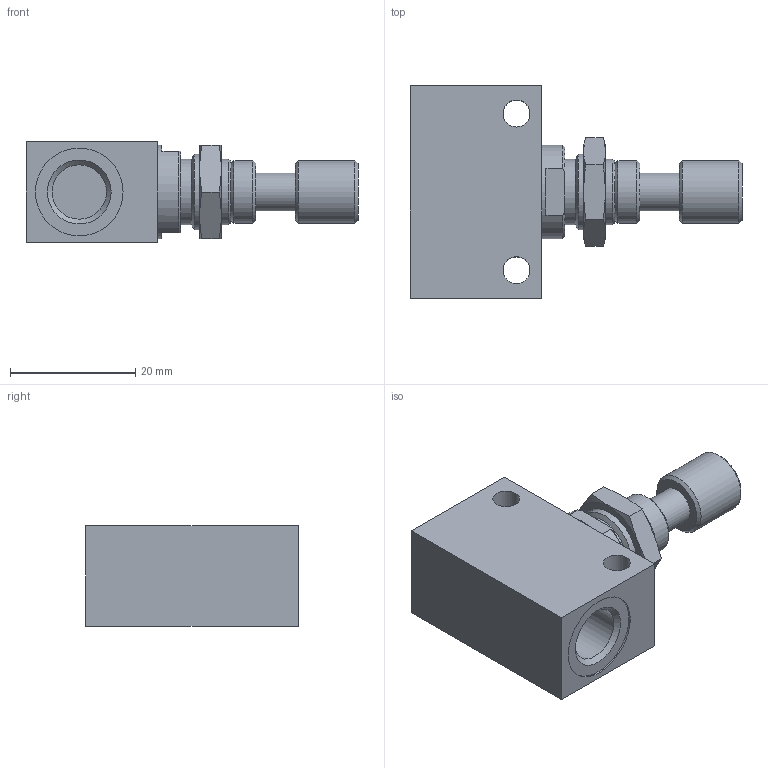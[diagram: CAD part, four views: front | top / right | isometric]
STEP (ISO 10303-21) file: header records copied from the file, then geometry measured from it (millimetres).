
FILE_DESCRIPTION(/* description */ (''),/* implementation_level */ '2;1');
FILE_NAME(/* name */ 'I:\Area Tecnica\Disegni\VARIE-3D\Componenti\600\6_01_18-###\6_01_18-1N.stp',/* time_stamp */ '2017-01-04T08:26:11+01:00',/* author */ ('maniean1'),/* organization */ (''),/* preprocessor_version */ 'ST-DEVELOPER v15.2',/* originating_system */ 'Autodesk Inventor 2014',/* authorisation */ '');
FILE_SCHEMA (('AUTOMOTIVE_DESIGN { 1 0 10303 214 3 1 1 }'));
Length unit declared in the file: millimetre
Products named in the file (4): 6_01_18#(A); 6_01_18#_(D); 6_01_18#_(E); 6_01_18-1N
Bounding box: 53 x 34 x 16 mm (x, y, z)
Volume: 12938.6 mm3; surface area: 5807.1 mm2
Topology: 3 solids, 3 shells, 60 faces, 122 edges, 76 vertices
Faces by surface type: plane 28, cone 17, cylinder 15
Full cylindrical faces by diameter (mm): 4.3 x2, 5.459 x1, 6 x1, 8.68 x2, 10 x2, 10.5 x2, 10.917 x1, 12 x1, 14 x2, 15 x1
Entity records: 1552 total; most frequent: CARTESIAN_POINT 263, DIRECTION 256, ORIENTED_EDGE 180, AXIS2_PLACEMENT_3D 115, EDGE_LOOP 106, EDGE_CURVE 90, VERTEX_POINT 74, ADVANCED_FACE 60
